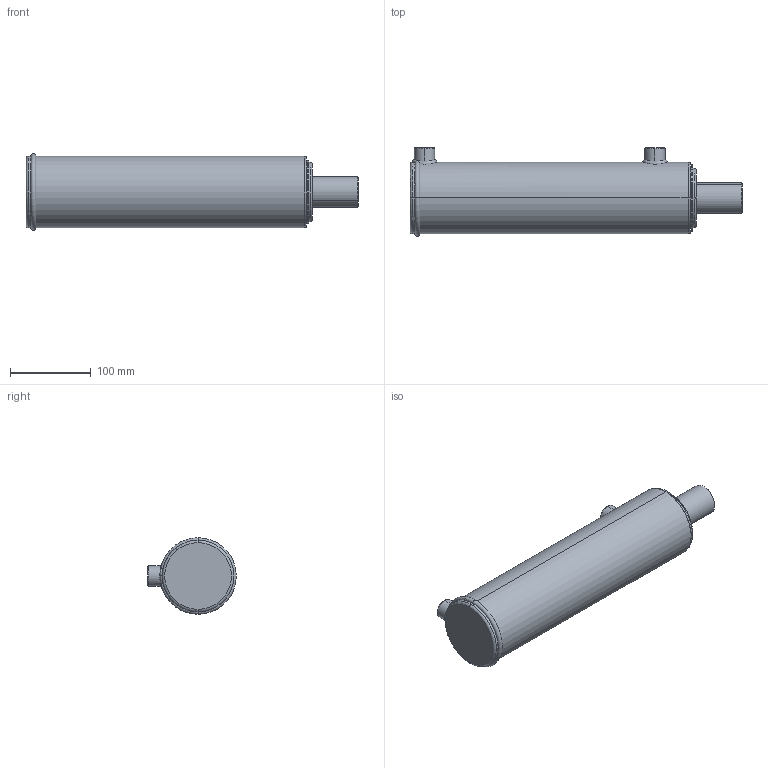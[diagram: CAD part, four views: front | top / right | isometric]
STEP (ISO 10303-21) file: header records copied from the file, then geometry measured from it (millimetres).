
FILE_DESCRIPTION (( 'STEP AP203' ), '1' );
FILE_NAME ('BL300150x254 (10).STEP', '2014-11-23T22:38:20', ( '' ), ( '' ), 'SwSTEP 2.0', 'SolidWorks 2014', '' );
FILE_SCHEMA (( 'CONFIG_CONTROL_DESIGN' ));
Length unit declared in the file: millimetre
Products named in the file (3): BL body 3_3x10; Spare_3x10; BL300150x254 (10)
Assembly tree (2 placements, depth 2):
  BL300150x254 (10)
    BL body 3_3x10
    Spare_3x10
Bounding box: 412 x 109.9 x 94.9 mm (x, y, z)
Volume: 2378927.3 mm3; surface area: 197629.3 mm2
Topology: 2 solids, 2 shells, 88 faces, 205 edges, 126 vertices
Faces by surface type: cylinder 32, plane 20, torus 17, bspline 11, cone 8
Entity records: 5992 total; most frequent: CARTESIAN_POINT 3745, DIRECTION 420, ORIENTED_EDGE 402, EDGE_CURVE 201, AXIS2_PLACEMENT_3D 181, VERTEX_POINT 126, EDGE_LOOP 101, CIRCLE 99
